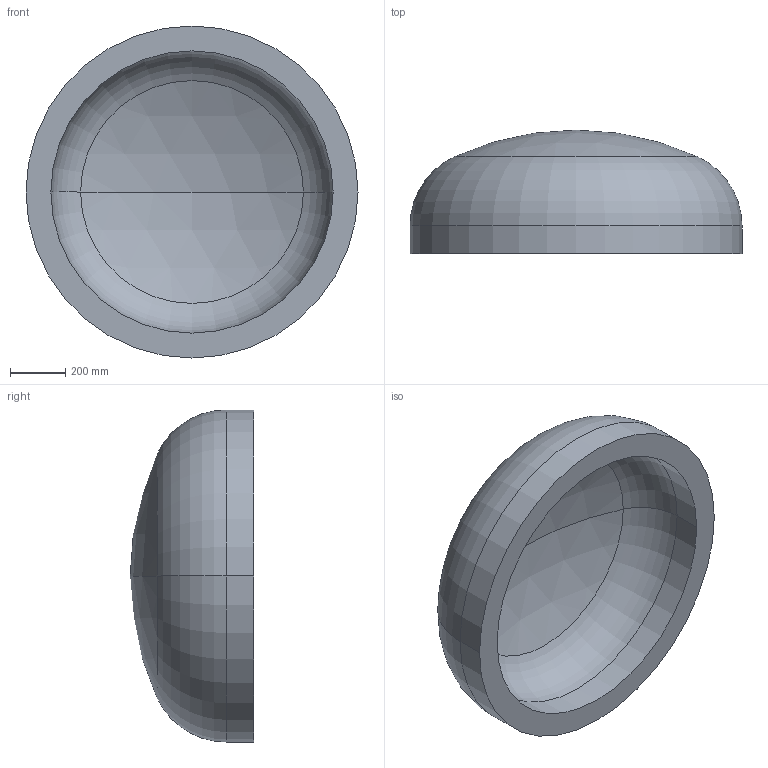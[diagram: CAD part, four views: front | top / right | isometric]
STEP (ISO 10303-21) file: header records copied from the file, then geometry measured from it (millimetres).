
FILE_DESCRIPTION (( 'STEP AP203' ), '1' );
FILE_NAME ('DIN 28013 Korbbogenform_-_Boden DIN 28013 - 1200 x 100 - I - s=90.step', '2016-07-01T09:36:25', ( '' ), ( '' ), 'SwSTEP 2.0', 'SolidWorks 2013', '' );
FILE_SCHEMA (( 'CONFIG_CONTROL_DESIGN' ));
Length unit declared in the file: millimetre
Products named in the file (1): DIN 28013 Korbbogenform_-_Boden DIN 28013 - 1200 x 100 - I - s=90
Bounding box: 1200 x 446.44 x 1200 mm (x, y, z)
Volume: 159676776.2 mm3; surface area: 3879181.8 mm2
Topology: 1 solids, 1 shells, 13 faces, 24 edges, 14 vertices
Faces by surface type: torus 4, cylinder 4, sphere 4, plane 1
Entity records: 407 total; most frequent: DIRECTION 72, CARTESIAN_POINT 52, ORIENTED_EDGE 48, AXIS2_PLACEMENT_3D 34, EDGE_CURVE 24, CIRCLE 20, VERTEX_POINT 14, EDGE_LOOP 14
